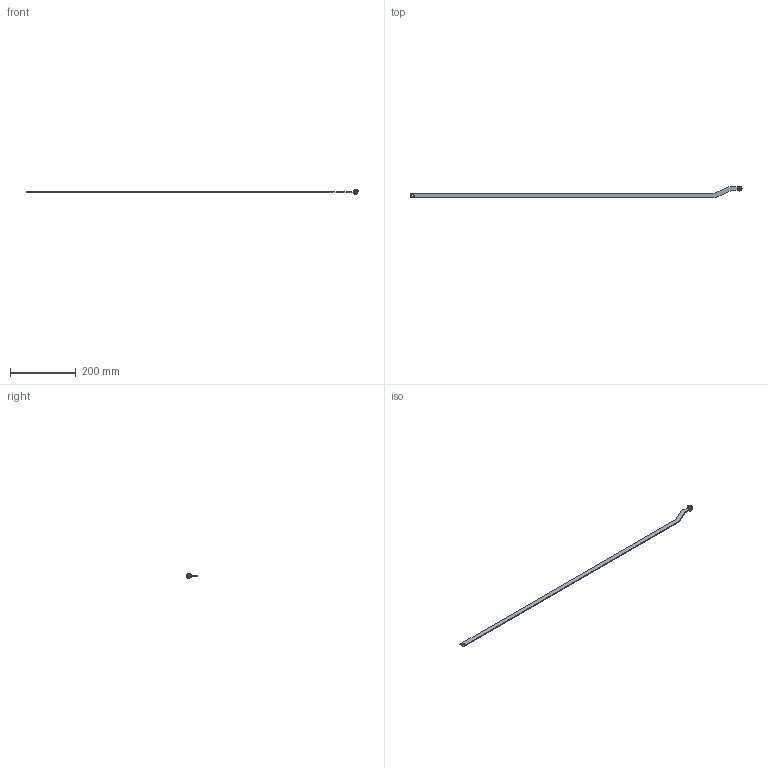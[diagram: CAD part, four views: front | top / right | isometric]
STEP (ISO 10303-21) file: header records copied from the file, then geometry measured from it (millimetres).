
FILE_DESCRIPTION (( 'STEP AP214' ), '1' );
FILE_NAME ('A25P-L.STEP', '2016-08-18T08:38:19', ( 'RST-Dolba' ), ( '' ), 'SwSTEP 2.0', 'SolidWorks 2015', '' );
FILE_SCHEMA (( 'AUTOMOTIVE_DESIGN' ));
Length unit declared in the file: millimetre
Products named in the file (5): DIN 125_M4; 1C.ROLKA.02.04.00_A-zak; 1C.905.001_A; 1C.A.X.Y.L.01_25P; A25P-L
Assembly tree (5 placements, depth 2):
  A25P-L
    1C.A.X.Y.L.01_25P
    1C.905.001_A  x2
    1C.ROLKA.02.04.00_A-zak
    DIN 125_M4
Bounding box: 1007.5 x 36 x 14 mm (x, y, z)
Volume: 43596.9 mm3; surface area: 35837.5 mm2
Topology: 5 solids, 5 shells, 62 faces, 147 edges, 95 vertices
Faces by surface type: cylinder 28, plane 28, torus 4, cone 2
Entity records: 1803 total; most frequent: DIRECTION 305, CARTESIAN_POINT 276, ORIENTED_EDGE 258, EDGE_CURVE 129, AXIS2_PLACEMENT_3D 114, VERTEX_POINT 85, LINE 77, VECTOR 77
